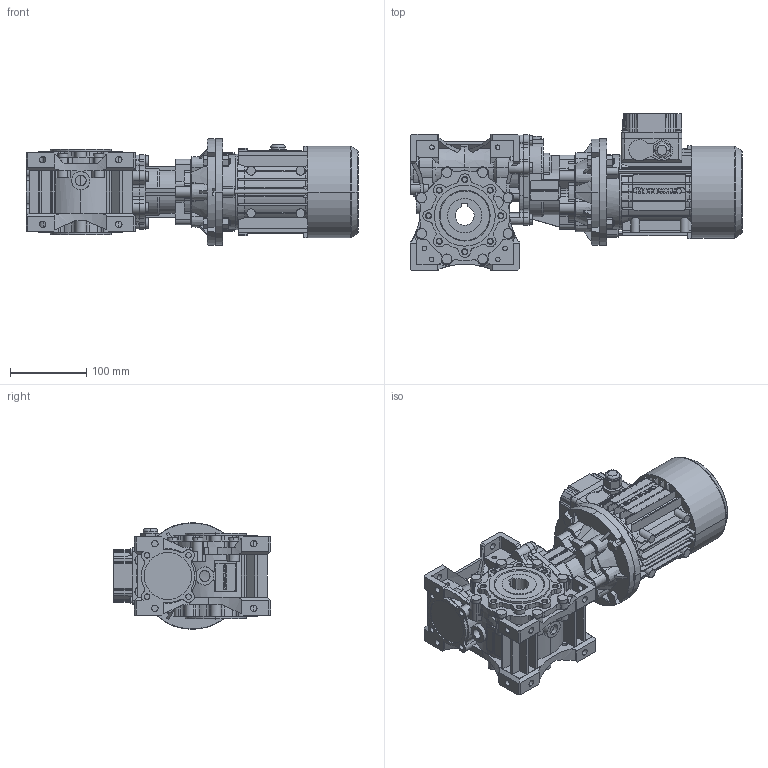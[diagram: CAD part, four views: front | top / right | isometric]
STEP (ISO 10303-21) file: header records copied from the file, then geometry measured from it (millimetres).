
FILE_DESCRIPTION( ( '' ), '1' );
FILE_NAME( '//expscmdclustefs.cadenas.external/client_exchange/iodir/jobs/output/wkb51808200_no0/STEP/NMRVP_HW_030_063_57_9__3_86x15__140x11_25_NO_NO_____NO_______NO_T_063_1_2_03.stp', '2012-11-30T06:25:34', ( '' ), ( '' ), ' ', ' ', ' ' );
FILE_SCHEMA( ( 'CONFIG_CONTROL_DESIGN' ) );
Length unit declared in the file: millimetre
Products named in the file (13): 1; 2; 3; 4; 5; 6; 7; 8; 9; 10; 11; 12; 13
Bounding box: 436.5 x 206.5 x 140 mm (x, y, z)
Volume: 4429925 mm3; surface area: 609029.6 mm2
Topology: 13 solids, 17 shells, 3843 faces, 10633 edges, 7031 vertices
Faces by surface type: plane 2007, cylinder 1618, cone 198, torus 16, sphere 4
Entity records: 126825 total; most frequent: CARTESIAN_POINT 25244, DIRECTION 21735, ORIENTED_EDGE 21262, EDGE_CURVE 10631, AXIS2_PLACEMENT_3D 7733, VERTEX_POINT 7031, LINE 6269, VECTOR 6269
